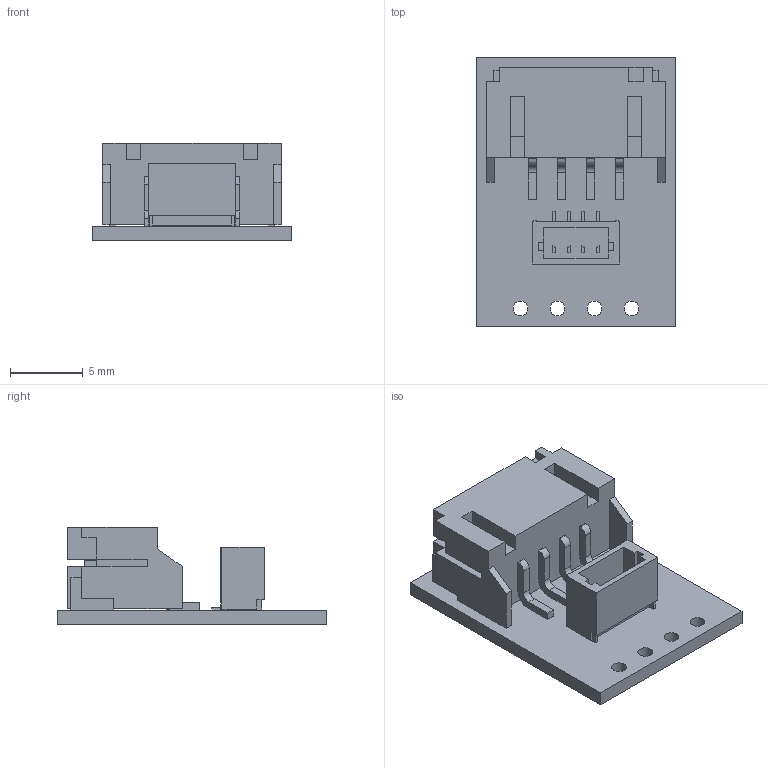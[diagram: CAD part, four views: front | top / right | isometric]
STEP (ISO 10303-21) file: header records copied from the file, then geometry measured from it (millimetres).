
FILE_DESCRIPTION (( 'STEP AP214' ), '1' );
FILE_NAME ('con10a_side_entry.STEP', '2025-08-19T02:13:04', ( '' ), ( '' ), 'SwSTEP 2.0', 'SolidWorks 2025', '' );
FILE_SCHEMA (( 'AUTOMOTIVE_DESIGN' ));
Length unit declared in the file: millimetre
Products named in the file (1): con10a_side_entry
Bounding box: 13.72 x 18.54 x 6.72 mm (x, y, z)
Volume: 517.8 mm3; surface area: 1344.3 mm2
Topology: 1 solids, 1 shells, 597 faces, 1645 edges, 1092 vertices
Faces by surface type: plane 399, bspline 178, cylinder 20
Entity records: 32070 total; most frequent: CARTESIAN_POINT 11401, ORIENTED_EDGE 3290, DIRECTION 2169, EDGE_CURVE 1645, VECTOR 1249, LINE 1249, VERTEX_POINT 1092, EDGE_LOOP 671
